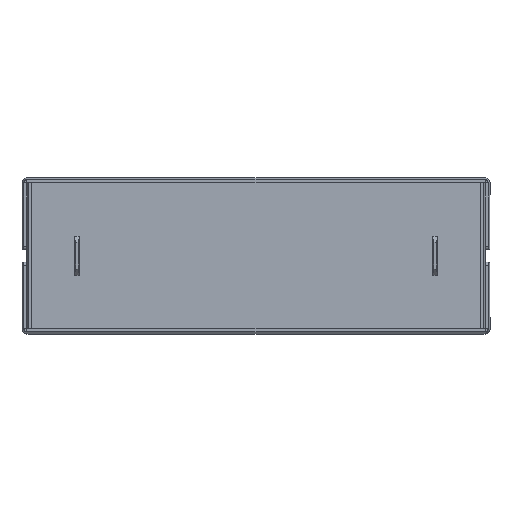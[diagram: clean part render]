
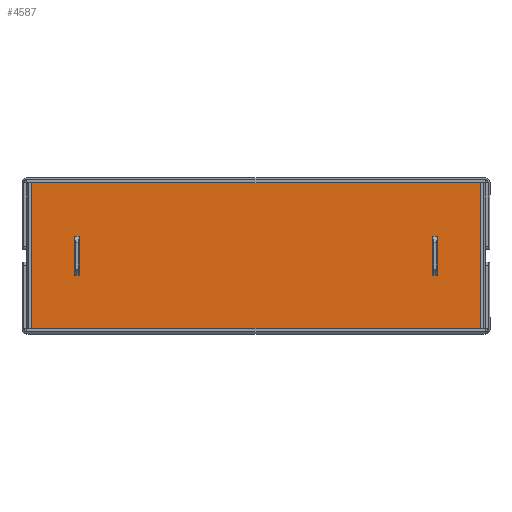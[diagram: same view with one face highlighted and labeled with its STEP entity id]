
A CAD part, top view. The second image highlights one B-rep face of the part: STEP entity #4587.
In plain terms, the highlighted planar face has unit normal (0, 0, 1).
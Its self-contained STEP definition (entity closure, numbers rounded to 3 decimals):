
#40 = DIRECTION ( 'NONE',  ( 1., 0., 0. ) ) ;
#129 = EDGE_CURVE ( 'NONE', #819, #3849, #528, .T. ) ;
#185 = EDGE_CURVE ( 'NONE', #3849, #3097, #4316, .T. ) ;
#204 = ORIENTED_EDGE ( 'NONE', *, *, #4285, .T. ) ;
#208 = CARTESIAN_POINT ( 'NONE',  ( 7.904, 29.568, 12.5 ) ) ;
#233 = DIRECTION ( 'NONE',  ( -1., 0., 0. ) ) ;
#311 = LINE ( 'NONE', #1195, #4281 ) ;
#358 = VERTEX_POINT ( 'NONE', #3300 ) ;
#438 = VECTOR ( 'NONE', #3458, 1000. ) ;
#477 = CARTESIAN_POINT ( 'NONE',  ( 1.104, 21.018, 12.5 ) ) ;
#528 = LINE ( 'NONE', #4149, #4501 ) ;
#594 = DIRECTION ( 'NONE',  ( 1., 0., 0. ) ) ;
#659 = DIRECTION ( 'NONE',  ( 1., 0., 0. ) ) ;
#704 = VECTOR ( 'NONE', #1458, 1000. ) ;
#748 = DIRECTION ( 'NONE',  ( -1., 0., 0. ) ) ;
#806 = DIRECTION ( 'NONE',  ( -1., 0., 0. ) ) ;
#819 = VERTEX_POINT ( 'NONE', #2004 ) ;
#890 = CARTESIAN_POINT ( 'NONE',  ( 0.304, 21.018, 12.5 ) ) ;
#1039 = EDGE_CURVE ( 'NONE', #2798, #2379, #1241, .T. ) ;
#1122 = CARTESIAN_POINT ( 'NONE',  ( -56.296, 14.718, 12.5 ) ) ;
#1195 = CARTESIAN_POINT ( 'NONE',  ( 0., 14.718, 12.5 ) ) ;
#1211 = CARTESIAN_POINT ( 'NONE',  ( 0., 0., 12.5 ) ) ;
#1241 = LINE ( 'NONE', #1412, #1723 ) ;
#1404 = EDGE_CURVE ( 'NONE', #2271, #358, #1422, .T. ) ;
#1406 = AXIS2_PLACEMENT_3D ( 'NONE', #1211, #2325, #3076 ) ;
#1412 = CARTESIAN_POINT ( 'NONE',  ( 0., 21.018, 12.5 ) ) ;
#1422 = LINE ( 'NONE', #2409, #4350 ) ;
#1458 = DIRECTION ( 'NONE',  ( 0., -1., 0. ) ) ;
#1544 = VERTEX_POINT ( 'NONE', #3255 ) ;
#1547 = CARTESIAN_POINT ( 'NONE',  ( -56.296, 0., 12.5 ) ) ;
#1573 = VECTOR ( 'NONE', #2642, 1000. ) ;
#1723 = VECTOR ( 'NONE', #233, 1000. ) ;
#1768 = EDGE_CURVE ( 'NONE', #2798, #4369, #2449, .T. ) ;
#1797 = EDGE_CURVE ( 'NONE', #3254, #819, #2715, .T. ) ;
#1802 = LINE ( 'NONE', #4975, #4256 ) ;
#1998 = ORIENTED_EDGE ( 'NONE', *, *, #3615, .F. ) ;
#2004 = CARTESIAN_POINT ( 'NONE',  ( -63.896, 6.168, 12.5 ) ) ;
#2010 = ORIENTED_EDGE ( 'NONE', *, *, #185, .T. ) ;
#2041 = CARTESIAN_POINT ( 'NONE',  ( -57.096, 14.718, 12.5 ) ) ;
#2090 = CARTESIAN_POINT ( 'NONE',  ( 0., 14.718, 12.5 ) ) ;
#2102 = DIRECTION ( 'NONE',  ( 0., 1., 0. ) ) ;
#2229 = ORIENTED_EDGE ( 'NONE', *, *, #2780, .T. ) ;
#2253 = CARTESIAN_POINT ( 'NONE',  ( -63.896, 29.568, 12.5 ) ) ;
#2271 = VERTEX_POINT ( 'NONE', #3161 ) ;
#2288 = DIRECTION ( 'NONE',  ( 0., 1., 0. ) ) ;
#2325 = DIRECTION ( 'NONE',  ( 0., 0., 1. ) ) ;
#2379 = VERTEX_POINT ( 'NONE', #890 ) ;
#2409 = CARTESIAN_POINT ( 'NONE',  ( 0., 21.018, 12.5 ) ) ;
#2449 = LINE ( 'NONE', #2610, #704 ) ;
#2450 = VERTEX_POINT ( 'NONE', #2041 ) ;
#2610 = CARTESIAN_POINT ( 'NONE',  ( 1.104, 0., 12.5 ) ) ;
#2642 = DIRECTION ( 'NONE',  ( 0., -1., 0. ) ) ;
#2715 = LINE ( 'NONE', #4517, #1573 ) ;
#2780 = EDGE_CURVE ( 'NONE', #3097, #3254, #1802, .T. ) ;
#2798 = VERTEX_POINT ( 'NONE', #477 ) ;
#2915 = VECTOR ( 'NONE', #594, 1000. ) ;
#3076 = DIRECTION ( 'NONE',  ( 1., 0., 0. ) ) ;
#3077 = EDGE_LOOP ( 'NONE', ( #2010, #2229, #4677, #3825 ) ) ;
#3084 = DIRECTION ( 'NONE',  ( 0., 1., 0. ) ) ;
#3097 = VERTEX_POINT ( 'NONE', #208 ) ;
#3161 = CARTESIAN_POINT ( 'NONE',  ( -56.296, 21.018, 12.5 ) ) ;
#3254 = VERTEX_POINT ( 'NONE', #2253 ) ;
#3255 = CARTESIAN_POINT ( 'NONE',  ( 0.304, 14.718, 12.5 ) ) ;
#3300 = CARTESIAN_POINT ( 'NONE',  ( -57.096, 21.018, 12.5 ) ) ;
#3383 = LINE ( 'NONE', #1547, #3678 ) ;
#3458 = DIRECTION ( 'NONE',  ( 0., -1., 0. ) ) ;
#3480 = CARTESIAN_POINT ( 'NONE',  ( 0.304, 0., 12.5 ) ) ;
#3592 = ORIENTED_EDGE ( 'NONE', *, *, #1039, .F. ) ;
#3615 = EDGE_CURVE ( 'NONE', #1544, #4369, #3942, .T. ) ;
#3678 = VECTOR ( 'NONE', #3084, 1000. ) ;
#3714 = CARTESIAN_POINT ( 'NONE',  ( 1.104, 14.718, 12.5 ) ) ;
#3809 = FACE_OUTER_BOUND ( 'NONE', #3077, .T. ) ;
#3825 = ORIENTED_EDGE ( 'NONE', *, *, #129, .T. ) ;
#3849 = VERTEX_POINT ( 'NONE', #4589 ) ;
#3873 = EDGE_LOOP ( 'NONE', ( #4479, #204, #4082, #4539 ) ) ;
#3876 = PLANE ( 'NONE',  #1406 ) ;
#3942 = LINE ( 'NONE', #2090, #2915 ) ;
#4082 = ORIENTED_EDGE ( 'NONE', *, *, #1404, .F. ) ;
#4106 = FACE_BOUND ( 'NONE', #4241, .T. ) ;
#4149 = CARTESIAN_POINT ( 'NONE',  ( 7.904, 6.168, 12.5 ) ) ;
#4198 = VECTOR ( 'NONE', #2288, 1000. ) ;
#4236 = FACE_BOUND ( 'NONE', #3873, .T. ) ;
#4241 = EDGE_LOOP ( 'NONE', ( #3592, #4376, #1998, #4320 ) ) ;
#4256 = VECTOR ( 'NONE', #748, 1000. ) ;
#4281 = VECTOR ( 'NONE', #40, 1000. ) ;
#4285 = EDGE_CURVE ( 'NONE', #2450, #358, #4668, .T. ) ;
#4316 = LINE ( 'NONE', #4583, #4198 ) ;
#4320 = ORIENTED_EDGE ( 'NONE', *, *, #4773, .F. ) ;
#4350 = VECTOR ( 'NONE', #806, 1000. ) ;
#4369 = VERTEX_POINT ( 'NONE', #3714 ) ;
#4376 = ORIENTED_EDGE ( 'NONE', *, *, #1768, .T. ) ;
#4460 = LINE ( 'NONE', #3480, #438 ) ;
#4479 = ORIENTED_EDGE ( 'NONE', *, *, #4954, .F. ) ;
#4501 = VECTOR ( 'NONE', #659, 1000. ) ;
#4517 = CARTESIAN_POINT ( 'NONE',  ( -63.896, 6.168, 12.5 ) ) ;
#4539 = ORIENTED_EDGE ( 'NONE', *, *, #4849, .F. ) ;
#4583 = CARTESIAN_POINT ( 'NONE',  ( 7.904, 6.168, 12.5 ) ) ;
#4587 = ADVANCED_FACE ( 'NONE', ( #3809, #4236, #4106 ), #3876, .T. ) ;
#4589 = CARTESIAN_POINT ( 'NONE',  ( 7.904, 6.168, 12.5 ) ) ;
#4668 = LINE ( 'NONE', #4817, #4781 ) ;
#4677 = ORIENTED_EDGE ( 'NONE', *, *, #1797, .T. ) ;
#4773 = EDGE_CURVE ( 'NONE', #2379, #1544, #4460, .T. ) ;
#4781 = VECTOR ( 'NONE', #2102, 1000. ) ;
#4817 = CARTESIAN_POINT ( 'NONE',  ( -57.096, 0., 12.5 ) ) ;
#4849 = EDGE_CURVE ( 'NONE', #4917, #2271, #3383, .T. ) ;
#4917 = VERTEX_POINT ( 'NONE', #1122 ) ;
#4954 = EDGE_CURVE ( 'NONE', #2450, #4917, #311, .T. ) ;
#4975 = CARTESIAN_POINT ( 'NONE',  ( 7.904, 29.568, 12.5 ) ) ;
